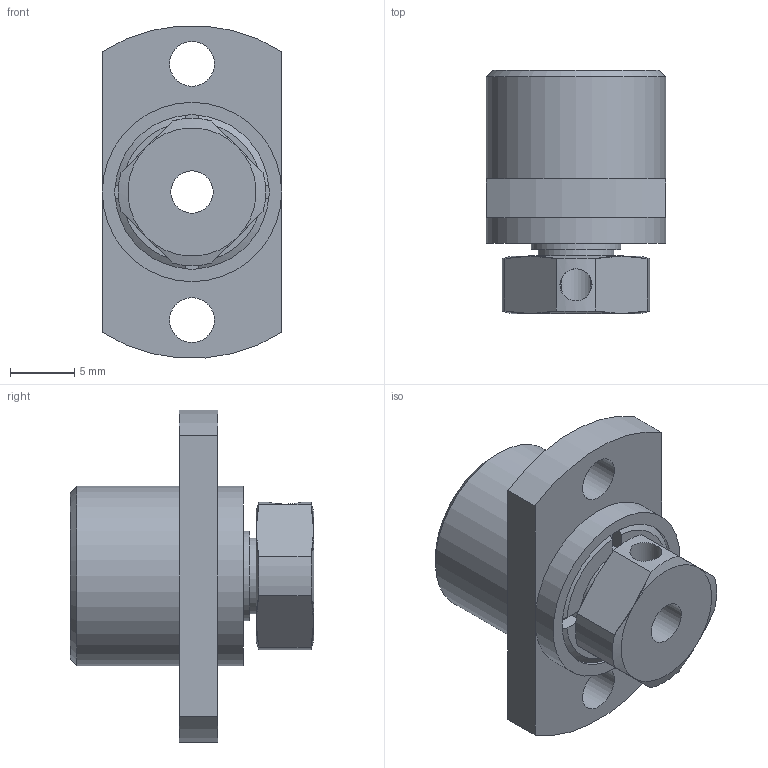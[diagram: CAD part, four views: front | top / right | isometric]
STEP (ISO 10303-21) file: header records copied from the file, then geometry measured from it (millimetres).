
FILE_DESCRIPTION((''),'1');
FILE_NAME('C:/Users/h-sekido/Desktop/今日のごみ/図面/作成中3D/クロクポ/stp/', '2021-04-30T04:26:18',(''), (''), 'KCM Version 1.1.1442.0', 'Kubotek KeyCreator', '');
FILE_SCHEMA(('AUTOMOTIVE_DESIGN'));
Length unit declared in the file: millimetre
Bounding box: 14 x 19 x 25.91 mm (x, y, z)
Surface area: 2138 mm2 (no closed solid volume)
Topology: 0 solids, 78 shells, 78 faces, 378 edges, 364 vertices
Faces by surface type: plane 32, cylinder 27, cone 15, bspline 4
Full cylindrical faces by diameter (mm): 2.5 x1, 3.3 x1, 3.5 x2, 4 x1, 5.9 x2, 6 x1, 7 x1, 8 x1, 9.5 x1, 14 x2
Entity records: 4049 total; most frequent: CARTESIAN_POINT 1145, DIRECTION 588, ORIENTED_EDGE 392, EDGE_CURVE 378, VERTEX_POINT 358, AXIS2_PLACEMENT_3D 219, VECTOR 150, LINE 150
